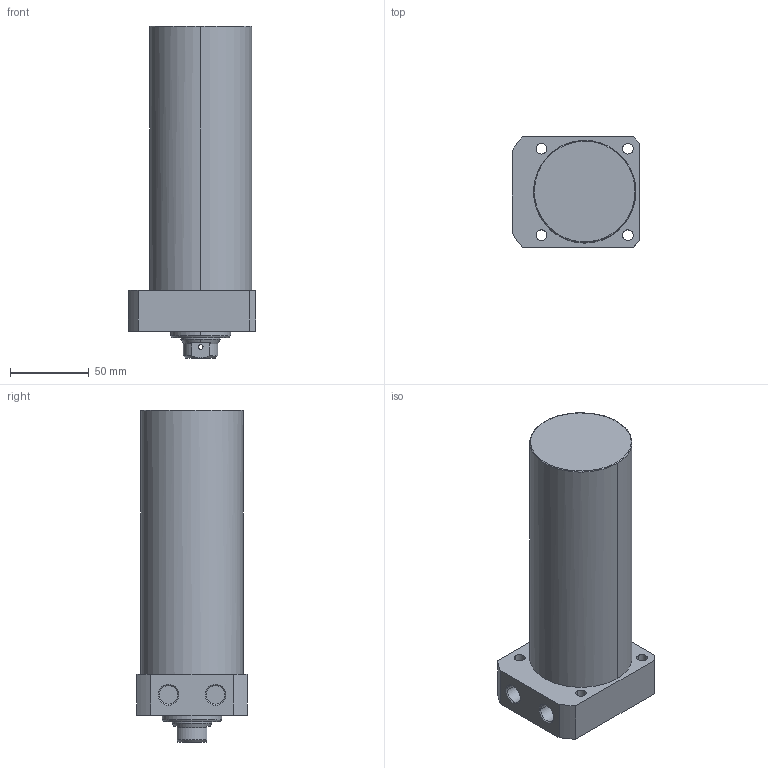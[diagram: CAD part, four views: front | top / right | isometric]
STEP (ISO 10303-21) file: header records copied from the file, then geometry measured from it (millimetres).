
FILE_DESCRIPTION((' '),'2;1');
FILE_NAME( 'TLLR-065CB-135.STEP.stp', '2025-10-24T16:34:58', (' '), ('--- Datakit www.datakit.com---'), ' Datakit CrossCadWare V2024.1 Dec 21 2023', 'Mastercam 2025', ' ');
FILE_SCHEMA(('AUTOMOTIVE_DESIGN { 1 0 10303 214 1 1 1 1 }'));
Length unit declared in the file: millimetre
Products named in the file (1): TLLR-065CB-135
Bounding box: 81 x 70 x 211 mm (x, y, z)
Volume: 701362.2 mm3; surface area: 58776.6 mm2
Topology: 1 solids, 1 shells, 67 faces, 197 edges, 136 vertices
Faces by surface type: cylinder 32, plane 19, cone 14, torus 2
Entity records: 3278 total; most frequent: CARTESIAN_POINT 1359, DIRECTION 426, ORIENTED_EDGE 390, EDGE_CURVE 195, AXIS2_PLACEMENT_3D 179, VERTEX_POINT 136, CIRCLE 111, EDGE_LOOP 85
